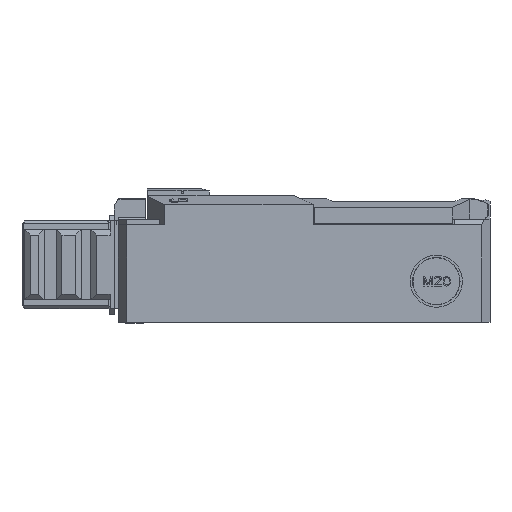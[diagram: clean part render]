
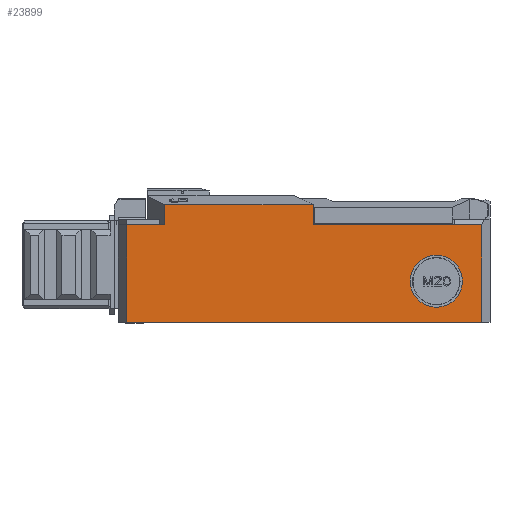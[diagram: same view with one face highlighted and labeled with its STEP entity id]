
A CAD part, left-side view. The second image highlights one B-rep face of the part: STEP entity #23899.
In plain terms, the highlighted planar face has unit normal (-1, 0, 0) as drawn and (1, 0, 0) by its records, which use the part's own axes.
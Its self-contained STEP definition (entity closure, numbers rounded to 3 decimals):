
#2583=DIRECTION('',(0.,0.,1.));
#2584=VECTOR('',#2583,13.793);
#2585=CARTESIAN_POINT('',(21.25,35.5,-3.793));
#2586=LINE('',#2585,#2584);
#7804=DIRECTION('',(0.,1.,0.));
#7805=VECTOR('',#7804,35.5);
#7806=CARTESIAN_POINT('',(21.25,0.,-119.));
#7807=LINE('',#7806,#7805);
#8739=DIRECTION('',(0.,0.,-1.));
#8740=VECTOR('',#8739,10.);
#8741=CARTESIAN_POINT('',(21.25,35.5,-109.));
#8742=LINE('',#8741,#8740);
#8746=DIRECTION('',(0.,0.,1.));
#8747=VECTOR('',#8746,129.);
#8748=CARTESIAN_POINT('',(21.25,0.,-119.));
#8749=LINE('',#8748,#8747);
#8753=DIRECTION('',(0.,1.,0.));
#8754=VECTOR('',#8753,35.5);
#8755=CARTESIAN_POINT('',(21.25,0.,10.));
#8756=LINE('',#8755,#8754);
#8760=DIRECTION('',(0.,1.,0.));
#8761=VECTOR('',#8760,7.352);
#8762=CARTESIAN_POINT('',(21.25,35.5,-3.793));
#8763=LINE('',#8762,#8761);
#8767=DIRECTION('',(0.,-1.,0.));
#8768=VECTOR('',#8767,7.352);
#8769=CARTESIAN_POINT('',(21.25,42.852,-57.784));
#8770=LINE('',#8769,#8768);
#8774=CARTESIAN_POINT('',(21.25,15.,-102.5));
#8775=DIRECTION('',(1.,0.,0.));
#8776=DIRECTION('',(0.,1.,0.));
#8777=AXIS2_PLACEMENT_3D('',#8774,#8775,#8776);
#8782=CARTESIAN_POINT('',(21.25,15.,-102.5));
#8783=DIRECTION('',(1.,0.,0.));
#8784=DIRECTION('',(0.,-1.,0.));
#8785=AXIS2_PLACEMENT_3D('',#8782,#8783,#8784);
#8797=DIRECTION('',(0.,0.,1.));
#8798=VECTOR('',#8797,53.991);
#8799=CARTESIAN_POINT('',(21.25,42.852,-57.784));
#8800=LINE('',#8799,#8798);
#11171=DIRECTION('',(0.,0.,1.));
#11172=VECTOR('',#11171,51.216);
#11173=CARTESIAN_POINT('',(21.25,35.5,-109.));
#11174=LINE('',#11173,#11172);
#18023=CARTESIAN_POINT('',(21.25,42.852,-57.784));
#18024=VERTEX_POINT('',#18023);
#18025=CARTESIAN_POINT('',(21.25,42.852,-3.793));
#18026=VERTEX_POINT('',#18025);
#18059=CARTESIAN_POINT('',(21.25,35.5,-109.));
#18060=CARTESIAN_POINT('',(21.25,35.5,-119.));
#18061=VERTEX_POINT('',#18059);
#18062=VERTEX_POINT('',#18060);
#18063=CARTESIAN_POINT('',(21.25,0.,-119.));
#18064=VERTEX_POINT('',#18063);
#18065=CARTESIAN_POINT('',(21.25,0.,10.));
#18066=VERTEX_POINT('',#18065);
#18067=CARTESIAN_POINT('',(21.25,35.5,10.));
#18068=VERTEX_POINT('',#18067);
#18069=CARTESIAN_POINT('',(21.25,35.5,-3.793));
#18070=VERTEX_POINT('',#18069);
#18071=CARTESIAN_POINT('',(21.25,35.5,-57.784));
#18072=VERTEX_POINT('',#18071);
#18073=CARTESIAN_POINT('',(21.25,24.46,-102.5));
#18074=CARTESIAN_POINT('',(21.25,5.54,-102.5));
#18075=VERTEX_POINT('',#18073);
#18076=VERTEX_POINT('',#18074);
#23872=CARTESIAN_POINT('',(21.25,42.852,13.));
#23873=DIRECTION('',(1.,0.,0.));
#23874=DIRECTION('',(0.,-1.,0.));
#23875=AXIS2_PLACEMENT_3D('',#23872,#23873,#23874);
#23876=PLANE('',#23875);
#23877=ORIENTED_EDGE('',*,*,#23426,.T.);
#23878=ORIENTED_EDGE('',*,*,#23443,.F.);
#23879=ORIENTED_EDGE('',*,*,#23200,.T.);
#23881=ORIENTED_EDGE('',*,*,#23880,.T.);
#23882=ORIENTED_EDGE('',*,*,#19665,.F.);
#23884=ORIENTED_EDGE('',*,*,#23883,.T.);
#23886=ORIENTED_EDGE('',*,*,#23885,.F.);
#23888=ORIENTED_EDGE('',*,*,#23887,.T.);
#23890=ORIENTED_EDGE('',*,*,#23889,.F.);
#23891=EDGE_LOOP('',(#23877,#23878,#23879,#23881,#23882,#23884,#23886,#23888,
#23890));
#23892=FACE_OUTER_BOUND('',#23891,.F.);
#23894=ORIENTED_EDGE('',*,*,#23893,.T.);
#23896=ORIENTED_EDGE('',*,*,#23895,.T.);
#23897=EDGE_LOOP('',(#23894,#23896));
#23898=FACE_BOUND('',#23897,.F.);
#23899=ADVANCED_FACE('',(#23892,#23898),#23876,.T.);
#8778=CIRCLE('',#8777,9.46);
#8786=CIRCLE('',#8785,9.46);
#19665=EDGE_CURVE('',#18070,#18068,#2586,.T.);
#23200=EDGE_CURVE('',#18064,#18066,#8749,.T.);
#23426=EDGE_CURVE('',#18061,#18062,#8742,.T.);
#23443=EDGE_CURVE('',#18064,#18062,#7807,.T.);
#23880=EDGE_CURVE('',#18066,#18068,#8756,.T.);
#23883=EDGE_CURVE('',#18070,#18026,#8763,.T.);
#23885=EDGE_CURVE('',#18024,#18026,#8800,.T.);
#23887=EDGE_CURVE('',#18024,#18072,#8770,.T.);
#23889=EDGE_CURVE('',#18061,#18072,#11174,.T.);
#23893=EDGE_CURVE('',#18075,#18076,#8778,.T.);
#23895=EDGE_CURVE('',#18076,#18075,#8786,.T.);
